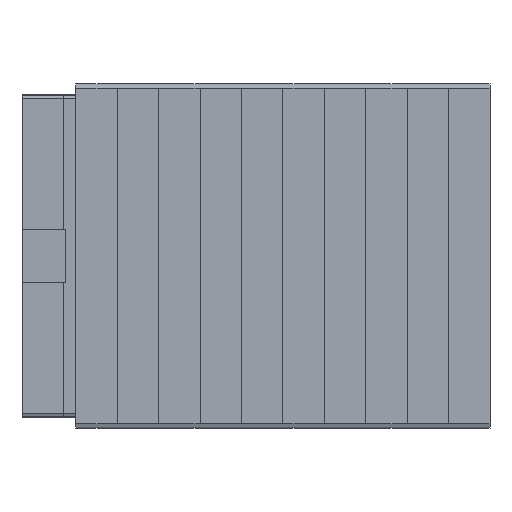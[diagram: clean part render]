
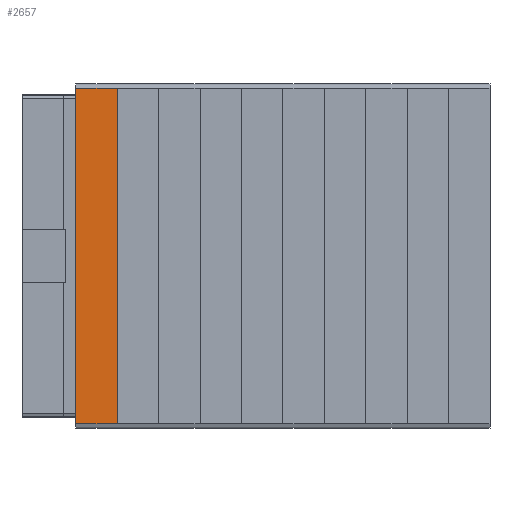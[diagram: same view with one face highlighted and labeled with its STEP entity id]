
A CAD part, top view. The second image highlights one B-rep face of the part: STEP entity #2657.
In plain terms, the highlighted planar face has unit normal (0, 0, 1).
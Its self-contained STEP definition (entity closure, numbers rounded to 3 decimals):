
#2517=DIRECTION('',(1.0,0.0,0.0));
#2565=DIRECTION('',(0.0,0.0,1.0));
#2615=CARTESIAN_POINT('',(157.5,11.2,5.5));
#2616=VERTEX_POINT('',#2615);
#2619=VECTOR('',#2517,7.7);
#2620=LINE('',#2615,#2619);
#2621=CARTESIAN_POINT('',(165.2,11.2,5.5));
#2622=VERTEX_POINT('',#2621);
#2623=EDGE_CURVE('',#2616,#2622,#2620,.T.);
#2635=DIRECTION('',(0.0,-1.0,0.0));
#2636=VECTOR('',#2635,62.4);
#2637=LINE('',#2615,#2636);
#2638=CARTESIAN_POINT('',(157.5,-51.2,5.5));
#2639=VERTEX_POINT('',#2638);
#2640=EDGE_CURVE('',#2616,#2639,#2637,.T.);
#2641=ORIENTED_EDGE('',*,*,#2640,.T.);
#2642=VECTOR('',#2517,7.7);
#2643=LINE('',#2638,#2642);
#2644=CARTESIAN_POINT('',(165.2,-51.2,5.5));
#2645=VERTEX_POINT('',#2644);
#2646=EDGE_CURVE('',#2639,#2645,#2643,.T.);
#2647=ORIENTED_EDGE('',*,*,#2646,.T.);
#2648=VECTOR('',#2635,62.4);
#2649=LINE('',#2621,#2648);
#2650=EDGE_CURVE('',#2622,#2645,#2649,.T.);
#2651=ORIENTED_EDGE('',*,*,#2650,.F.);
#2652=ORIENTED_EDGE('',*,*,#2623,.F.);
#2653=EDGE_LOOP('',(#2641,#2647,#2651,#2652));
#2654=FACE_OUTER_BOUND('',#2653,.T.);
#2655=AXIS2_PLACEMENT_3D('',#2615,#2565,#2517);
#2656=PLANE('',#2655);
#2657=ADVANCED_FACE('',(#2654),#2656,.T.);
